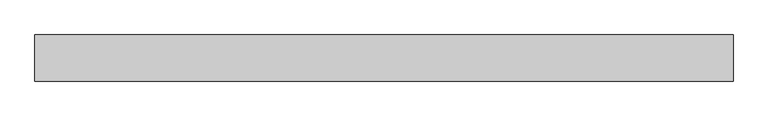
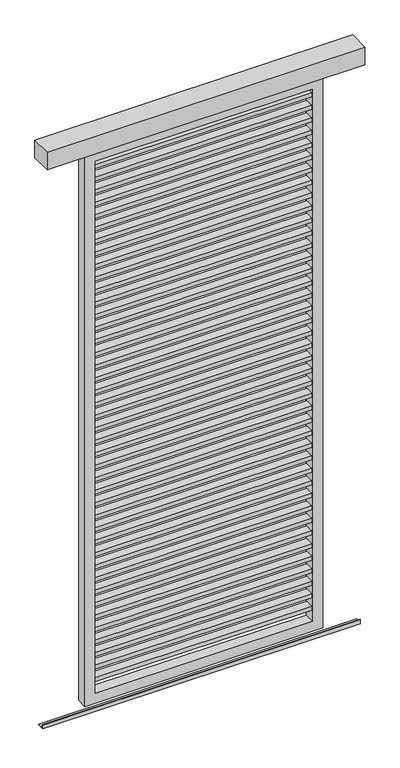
"""IFC4 building model written with IfcOpenShell, lengths in millimetres: proxy geometry, Renson_Amani_Loggia_Plano_Sliding : Renson_Amani_Loggia_Plano_Sliding."""

from ifc_helpers import new_model, si_unit, frame, origin, place, context, project, spatial, polyline, outline, extrude, source, transform, mapped, element, save


def generic_models_c135353b(model_context):
    return source(origin(), model_context, "Body", "SweptSolid", [
        extrude(outline(polyline([(600.0, 46.0), (600.0, -34.0), (-600.0, -34.0), (-600.0, 46.0), (600.0, 46.0)])), frame((0.0, 0.0, 2250.0), z_axis=(0.0, 0.0, 1.0), x_axis=(1.0, 0.0, 0.0)), (0.0, 0.0, 1.0), 70.0),
        extrude(outline(polyline([(410.0, 16.5), (410.0, -16.5), (-410.0, -16.5), (-410.0, 16.5), (410.0, 16.5)])), frame((0.0, 0.0, 2177.0), z_axis=(0.0, 0.0, 1.0), x_axis=(1.0, 0.0, 0.0)), (0.0, 0.0, 1.0), 16.0),
        extrude(outline(polyline([(410.0, 16.5), (410.0, -16.5), (-410.0, -16.5), (-410.0, 16.5), (410.0, 16.5)])), frame((0.0, 0.0, 2127.0), z_axis=(0.0, 0.0, 1.0), x_axis=(1.0, 0.0, 0.0)), (0.0, 0.0, 1.0), 16.0),
        extrude(outline(polyline([(410.0, 16.5), (410.0, -16.5), (-410.0, -16.5), (-410.0, 16.5), (410.0, 16.5)])), frame((0.0, 0.0, 2077.0), z_axis=(0.0, 0.0, 1.0), x_axis=(1.0, 0.0, 0.0)), (0.0, 0.0, 1.0), 16.0),
        extrude(outline(polyline([(410.0, 16.5), (410.0, -16.5), (-410.0, -16.5), (-410.0, 16.5), (410.0, 16.5)])), frame((0.0, 0.0, 2027.0), z_axis=(0.0, 0.0, 1.0), x_axis=(1.0, 0.0, 0.0)), (0.0, 0.0, 1.0), 16.0),
        extrude(outline(polyline([(410.0, 16.5), (410.0, -16.5), (-410.0, -16.5), (-410.0, 16.5), (410.0, 16.5)])), frame((0.0, 0.0, 1977.0), z_axis=(0.0, 0.0, 1.0), x_axis=(1.0, 0.0, 0.0)), (0.0, 0.0, 1.0), 16.0),
        extrude(outline(polyline([(410.0, 16.5), (410.0, -16.5), (-410.0, -16.5), (-410.0, 16.5), (410.0, 16.5)])), frame((0.0, 0.0, 1927.0), z_axis=(0.0, 0.0, 1.0), x_axis=(1.0, 0.0, 0.0)), (0.0, 0.0, 1.0), 16.0),
        extrude(outline(polyline([(410.0, 16.5), (410.0, -16.5), (-410.0, -16.5), (-410.0, 16.5), (410.0, 16.5)])), frame((0.0, 0.0, 1877.0), z_axis=(0.0, 0.0, 1.0), x_axis=(1.0, 0.0, 0.0)), (0.0, 0.0, 1.0), 16.0),
        extrude(outline(polyline([(410.0, 16.5), (410.0, -16.5), (-410.0, -16.5), (-410.0, 16.5), (410.0, 16.5)])), frame((0.0, 0.0, 1827.0), z_axis=(0.0, 0.0, 1.0), x_axis=(1.0, 0.0, 0.0)), (0.0, 0.0, 1.0), 16.0),
        extrude(outline(polyline([(410.0, 16.5), (410.0, -16.5), (-410.0, -16.5), (-410.0, 16.5), (410.0, 16.5)])), frame((0.0, 0.0, 1777.0), z_axis=(0.0, 0.0, 1.0), x_axis=(1.0, 0.0, 0.0)), (0.0, 0.0, 1.0), 16.0),
        extrude(outline(polyline([(410.0, 16.5), (410.0, -16.5), (-410.0, -16.5), (-410.0, 16.5), (410.0, 16.5)])), frame((0.0, 0.0, 1727.0), z_axis=(0.0, 0.0, 1.0), x_axis=(1.0, 0.0, 0.0)), (0.0, 0.0, 1.0), 16.0),
        extrude(outline(polyline([(410.0, 16.5), (410.0, -16.5), (-410.0, -16.5), (-410.0, 16.5), (410.0, 16.5)])), frame((0.0, 0.0, 1677.0), z_axis=(0.0, 0.0, 1.0), x_axis=(1.0, 0.0, 0.0)), (0.0, 0.0, 1.0), 16.0),
        extrude(outline(polyline([(410.0, 16.5), (410.0, -16.5), (-410.0, -16.5), (-410.0, 16.5), (410.0, 16.5)])), frame((0.0, 0.0, 1627.0), z_axis=(0.0, 0.0, 1.0), x_axis=(1.0, 0.0, 0.0)), (0.0, 0.0, 1.0), 16.0),
        extrude(outline(polyline([(410.0, 16.5), (410.0, -16.5), (-410.0, -16.5), (-410.0, 16.5), (410.0, 16.5)])), frame((0.0, 0.0, 1577.0), z_axis=(0.0, 0.0, 1.0), x_axis=(1.0, 0.0, 0.0)), (0.0, 0.0, 1.0), 16.0),
        extrude(outline(polyline([(410.0, 16.5), (410.0, -16.5), (-410.0, -16.5), (-410.0, 16.5), (410.0, 16.5)])), frame((0.0, 0.0, 1527.0), z_axis=(0.0, 0.0, 1.0), x_axis=(1.0, 0.0, 0.0)), (0.0, 0.0, 1.0), 16.0),
        extrude(outline(polyline([(410.0, 16.5), (410.0, -16.5), (-410.0, -16.5), (-410.0, 16.5), (410.0, 16.5)])), frame((0.0, 0.0, 1477.0), z_axis=(0.0, 0.0, 1.0), x_axis=(1.0, 0.0, 0.0)), (0.0, 0.0, 1.0), 16.0),
        extrude(outline(polyline([(410.0, 16.5), (410.0, -16.5), (-410.0, -16.5), (-410.0, 16.5), (410.0, 16.5)])), frame((0.0, 0.0, 1427.0), z_axis=(0.0, 0.0, 1.0), x_axis=(1.0, 0.0, 0.0)), (0.0, 0.0, 1.0), 16.0),
        extrude(outline(polyline([(410.0, 16.5), (410.0, -16.5), (-410.0, -16.5), (-410.0, 16.5), (410.0, 16.5)])), frame((0.0, 0.0, 1377.0), z_axis=(0.0, 0.0, 1.0), x_axis=(1.0, 0.0, 0.0)), (0.0, 0.0, 1.0), 16.0),
        extrude(outline(polyline([(410.0, 16.5), (410.0, -16.5), (-410.0, -16.5), (-410.0, 16.5), (410.0, 16.5)])), frame((0.0, 0.0, 1327.0), z_axis=(0.0, 0.0, 1.0), x_axis=(1.0, 0.0, 0.0)), (0.0, 0.0, 1.0), 16.0),
        extrude(outline(polyline([(410.0, 16.5), (410.0, -16.5), (-410.0, -16.5), (-410.0, 16.5), (410.0, 16.5)])), frame((0.0, 0.0, 1277.0), z_axis=(0.0, 0.0, 1.0), x_axis=(1.0, 0.0, 0.0)), (0.0, 0.0, 1.0), 16.0),
        extrude(outline(polyline([(410.0, 16.5), (410.0, -16.5), (-410.0, -16.5), (-410.0, 16.5), (410.0, 16.5)])), frame((0.0, 0.0, 1227.0), z_axis=(0.0, 0.0, 1.0), x_axis=(1.0, 0.0, 0.0)), (0.0, 0.0, 1.0), 16.0),
        extrude(outline(polyline([(410.0, 16.5), (410.0, -16.5), (-410.0, -16.5), (-410.0, 16.5), (410.0, 16.5)])), frame((0.0, 0.0, 1177.0), z_axis=(0.0, 0.0, 1.0), x_axis=(1.0, 0.0, 0.0)), (0.0, 0.0, 1.0), 16.0),
        extrude(outline(polyline([(410.0, 16.5), (410.0, -16.5), (-410.0, -16.5), (-410.0, 16.5), (410.0, 16.5)])), frame((0.0, 0.0, 1127.0), z_axis=(0.0, 0.0, 1.0), x_axis=(1.0, 0.0, 0.0)), (0.0, 0.0, 1.0), 16.0),
        extrude(outline(polyline([(410.0, 16.5), (410.0, -16.5), (-410.0, -16.5), (-410.0, 16.5), (410.0, 16.5)])), frame((0.0, 0.0, 1077.0), z_axis=(0.0, 0.0, 1.0), x_axis=(1.0, 0.0, 0.0)), (0.0, 0.0, 1.0), 16.0),
        extrude(outline(polyline([(410.0, 16.5), (410.0, -16.5), (-410.0, -16.5), (-410.0, 16.5), (410.0, 16.5)])), frame((0.0, 0.0, 1027.0), z_axis=(0.0, 0.0, 1.0), x_axis=(1.0, 0.0, 0.0)), (0.0, 0.0, 1.0), 16.0),
        extrude(outline(polyline([(410.0, 16.5), (410.0, -16.5), (-410.0, -16.5), (-410.0, 16.5), (410.0, 16.5)])), frame((0.0, 0.0, 977.0), z_axis=(0.0, 0.0, 1.0), x_axis=(1.0, 0.0, 0.0)), (0.0, 0.0, 1.0), 16.0),
        extrude(outline(polyline([(410.0, 16.5), (410.0, -16.5), (-410.0, -16.5), (-410.0, 16.5), (410.0, 16.5)])), frame((0.0, 0.0, 927.0), z_axis=(0.0, 0.0, 1.0), x_axis=(1.0, 0.0, 0.0)), (0.0, 0.0, 1.0), 16.0),
        extrude(outline(polyline([(410.0, 16.5), (410.0, -16.5), (-410.0, -16.5), (-410.0, 16.5), (410.0, 16.5)])), frame((0.0, 0.0, 877.0), z_axis=(0.0, 0.0, 1.0), x_axis=(1.0, 0.0, 0.0)), (0.0, 0.0, 1.0), 16.0),
        extrude(outline(polyline([(410.0, 16.5), (410.0, -16.5), (-410.0, -16.5), (-410.0, 16.5), (410.0, 16.5)])), frame((0.0, 0.0, 827.0), z_axis=(0.0, 0.0, 1.0), x_axis=(1.0, 0.0, 0.0)), (0.0, 0.0, 1.0), 16.0),
        extrude(outline(polyline([(410.0, 16.5), (410.0, -16.5), (-410.0, -16.5), (-410.0, 16.5), (410.0, 16.5)])), frame((0.0, 0.0, 777.0), z_axis=(0.0, 0.0, 1.0), x_axis=(1.0, 0.0, 0.0)), (0.0, 0.0, 1.0), 16.0),
        extrude(outline(polyline([(410.0, 16.5), (410.0, -16.5), (-410.0, -16.5), (-410.0, 16.5), (410.0, 16.5)])), frame((0.0, 0.0, 727.0), z_axis=(0.0, 0.0, 1.0), x_axis=(1.0, 0.0, 0.0)), (0.0, 0.0, 1.0), 16.0),
        extrude(outline(polyline([(410.0, 16.5), (410.0, -16.5), (-410.0, -16.5), (-410.0, 16.5), (410.0, 16.5)])), frame((0.0, 0.0, 677.0), z_axis=(0.0, 0.0, 1.0), x_axis=(1.0, 0.0, 0.0)), (0.0, 0.0, 1.0), 16.0),
        extrude(outline(polyline([(410.0, 16.5), (410.0, -16.5), (-410.0, -16.5), (-410.0, 16.5), (410.0, 16.5)])), frame((0.0, 0.0, 627.0), z_axis=(0.0, 0.0, 1.0), x_axis=(1.0, 0.0, 0.0)), (0.0, 0.0, 1.0), 16.0),
        extrude(outline(polyline([(410.0, 16.5), (410.0, -16.5), (-410.0, -16.5), (-410.0, 16.5), (410.0, 16.5)])), frame((0.0, 0.0, 577.0), z_axis=(0.0, 0.0, 1.0), x_axis=(1.0, 0.0, 0.0)), (0.0, 0.0, 1.0), 16.0),
        extrude(outline(polyline([(410.0, 16.5), (410.0, -16.5), (-410.0, -16.5), (-410.0, 16.5), (410.0, 16.5)])), frame((0.0, 0.0, 527.0), z_axis=(0.0, 0.0, 1.0), x_axis=(1.0, 0.0, 0.0)), (0.0, 0.0, 1.0), 16.0),
        extrude(outline(polyline([(410.0, 16.5), (410.0, -16.5), (-410.0, -16.5), (-410.0, 16.5), (410.0, 16.5)])), frame((0.0, 0.0, 477.0), z_axis=(0.0, 0.0, 1.0), x_axis=(1.0, 0.0, 0.0)), (0.0, 0.0, 1.0), 16.0),
        extrude(outline(polyline([(410.0, 16.5), (410.0, -16.5), (-410.0, -16.5), (-410.0, 16.5), (410.0, 16.5)])), frame((0.0, 0.0, 427.0), z_axis=(0.0, 0.0, 1.0), x_axis=(1.0, 0.0, 0.0)), (0.0, 0.0, 1.0), 16.0),
        extrude(outline(polyline([(410.0, 16.5), (410.0, -16.5), (-410.0, -16.5), (-410.0, 16.5), (410.0, 16.5)])), frame((0.0, 0.0, 377.0), z_axis=(0.0, 0.0, 1.0), x_axis=(1.0, 0.0, 0.0)), (0.0, 0.0, 1.0), 16.0),
        extrude(outline(polyline([(410.0, 16.5), (410.0, -16.5), (-410.0, -16.5), (-410.0, 16.5), (410.0, 16.5)])), frame((0.0, 0.0, 327.0), z_axis=(0.0, 0.0, 1.0), x_axis=(1.0, 0.0, 0.0)), (0.0, 0.0, 1.0), 16.0),
        extrude(outline(polyline([(410.0, 16.5), (410.0, -16.5), (-410.0, -16.5), (-410.0, 16.5), (410.0, 16.5)])), frame((0.0, 0.0, 277.0), z_axis=(0.0, 0.0, 1.0), x_axis=(1.0, 0.0, 0.0)), (0.0, 0.0, 1.0), 16.0),
        extrude(outline(polyline([(410.0, 16.5), (410.0, -16.5), (-410.0, -16.5), (-410.0, 16.5), (410.0, 16.5)])), frame((0.0, 0.0, 227.0), z_axis=(0.0, 0.0, 1.0), x_axis=(1.0, 0.0, 0.0)), (0.0, 0.0, 1.0), 16.0),
        extrude(outline(polyline([(410.0, 16.5), (410.0, -16.5), (-410.0, -16.5), (-410.0, 16.5), (410.0, 16.5)])), frame((0.0, 0.0, 177.0), z_axis=(0.0, 0.0, 1.0), x_axis=(1.0, 0.0, 0.0)), (0.0, 0.0, 1.0), 16.0),
        extrude(outline(polyline([(410.0, 16.5), (410.0, -16.5), (-410.0, -16.5), (-410.0, 16.5), (410.0, 16.5)])), frame((0.0, 0.0, 127.0), z_axis=(0.0, 0.0, 1.0), x_axis=(1.0, 0.0, 0.0)), (0.0, 0.0, 1.0), 16.0),
        extrude(outline(polyline([(-6.0, 15.0), (-3.0, 15.0), (-3.0, 3.0), (20.0, 3.0), (20.0, 0.0), (-6.0, 0.0), (-6.0, 15.0)])), frame((-600.0, 0.0, 0.0), z_axis=(1.0, 0.0, 0.0), x_axis=(0.0, 1.0, 0.0)), (0.0, 0.0, 1.0), 1200.0),
        extrude(outline(polyline([(2250.0, -450.0), (45.0, -450.0), (45.0, 450.0), (2250.0, 450.0), (2250.0, -450.0)]), holes=[polyline([(2210.0, 410.0), (85.0, 410.0), (85.0, -410.0), (2210.0, -410.0), (2210.0, 410.0)])]), frame((0.0, -20.0, 0.0), z_axis=(0.0, 1.0, 0.0), x_axis=(0.0, 0.0, 1.0)), (0.0, 0.0, 1.0), 40.0),
    ])


if __name__ == "__main__":
    model = new_model("IFC4")
    model_context = context("Model", 3, world=origin())
    ifc_project = project(units=[si_unit("LENGTHUNIT", "METRE", prefix="MILLI")], contexts=[model_context])
    site = spatial("IfcSite", under=ifc_project)
    building = spatial("IfcBuilding", under=site)
    placement = place(None, origin())
    generic_models_shape = generic_models_c135353b(model_context)
    element("IfcBuildingElementProxy", 1, Name="Renson_Amani_Loggia_Plano_Sliding : Renson_Amani_Loggia_Plano_Sliding", ObjectType="Renson_Amani_Loggia_Plano_Sliding : Renson_Amani_Loggia_Plano_Sliding", at=placement, inside=building, context=model_context, shape_type="MappedRepresentation", body=[
        mapped(generic_models_shape, transform((0.0, 0.0, 0.0), x_axis=(1.0, 0.0, 0.0), y_axis=(0.0, 1.0, 0.0), z_axis=(0.0, 0.0, 1.0))),
    ])
    save(model, "model.ifc")
